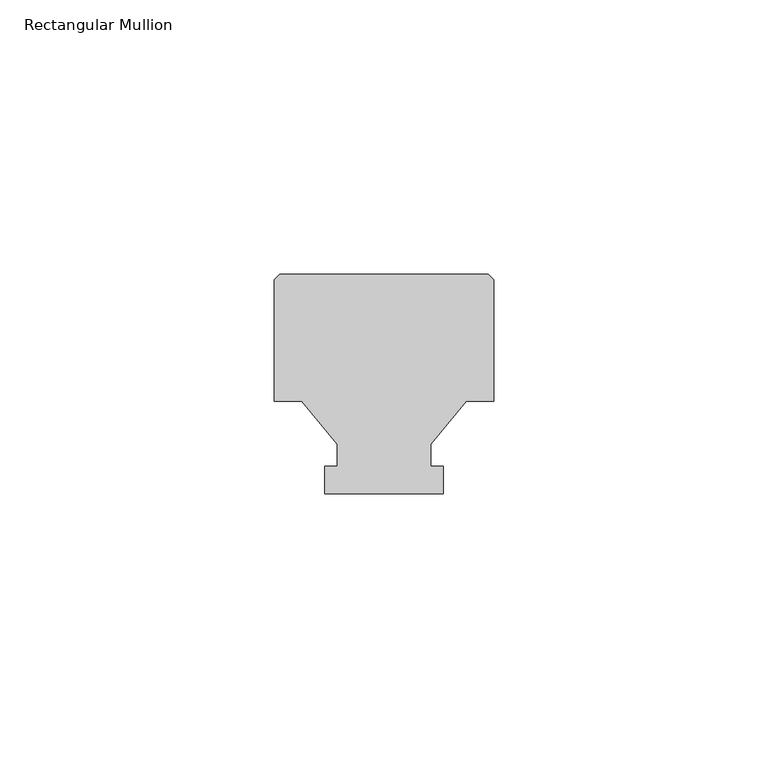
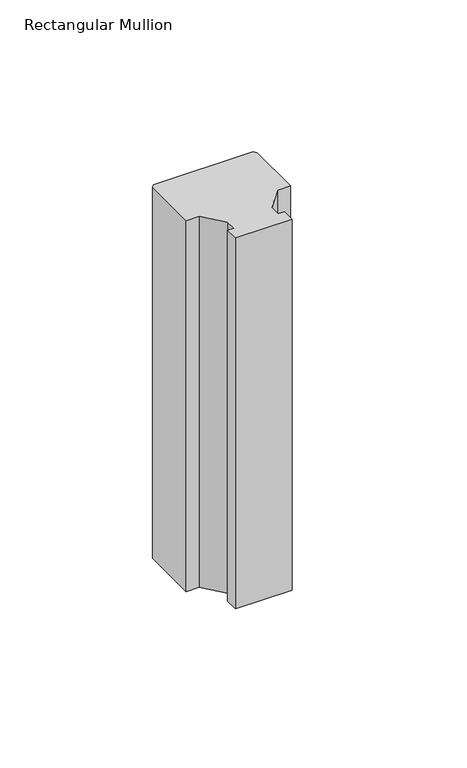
"""IFC4 building model written with IfcOpenShell, lengths in millimetres: member geometry, Rectangular Mullion : Batten_Timber_Modinex_Austratus_Grid_Fin_40x40_AlaskanYellowCedar."""

from ifc_helpers import new_model, si_unit, frame, origin, place, context, project, spatial, polyline, outline, extrude, source, transform, mapped, element, save


def rectangular_mullion_18d3c9e1(model_context):
    return source(origin(), model_context, "Body", "SweptSolid", [
        extrude(outline(polyline([(-40.0, 16.8079815), (-40.0, 39.0), (-39.0, 40.0), (-1.0, 40.0), (0.0, 39.0), (0.0, 16.8079815), (-5.0, 16.8079815), (-11.5, 9.0), (-11.5, 5.0), (-9.187805, 5.0), (-9.187805, 0.0), (-30.812195, 0.0), (-30.812195, 5.0), (-28.5, 5.0), (-28.5, 9.0), (-35.0, 16.8079815), (-40.0, 16.8079815)])), frame((0.0, 0.0, -150.0), z_axis=(0.0, 0.0, 1.0), x_axis=(1.0, 0.0, 0.0)), (0.0, 0.0, 1.0), 150.0),
    ])


if __name__ == "__main__":
    model = new_model("IFC4")
    model_context = context("Model", 3, world=origin())
    ifc_project = project(units=[si_unit("LENGTHUNIT", "METRE", prefix="MILLI")], contexts=[model_context])
    site = spatial("IfcSite", under=ifc_project)
    building = spatial("IfcBuilding", under=site)
    placement = place(None, origin())
    rectangular_mullion_shape = rectangular_mullion_18d3c9e1(model_context)
    element("IfcMember", 1, ObjectType="Rectangular Mullion : Batten_Timber_Modinex_Austratus_Grid_Fin_40x40_AlaskanYellowCedar", at=placement, inside=building, context=model_context, shape_type="MappedRepresentation", body=[
        mapped(rectangular_mullion_shape, transform((0.0, 0.0, 0.0), x_axis=(1.0, 0.0, 0.0), y_axis=(0.0, 1.0, 0.0), z_axis=(0.0, 0.0, 1.0))),
    ])
    save(model, "model.ifc")
